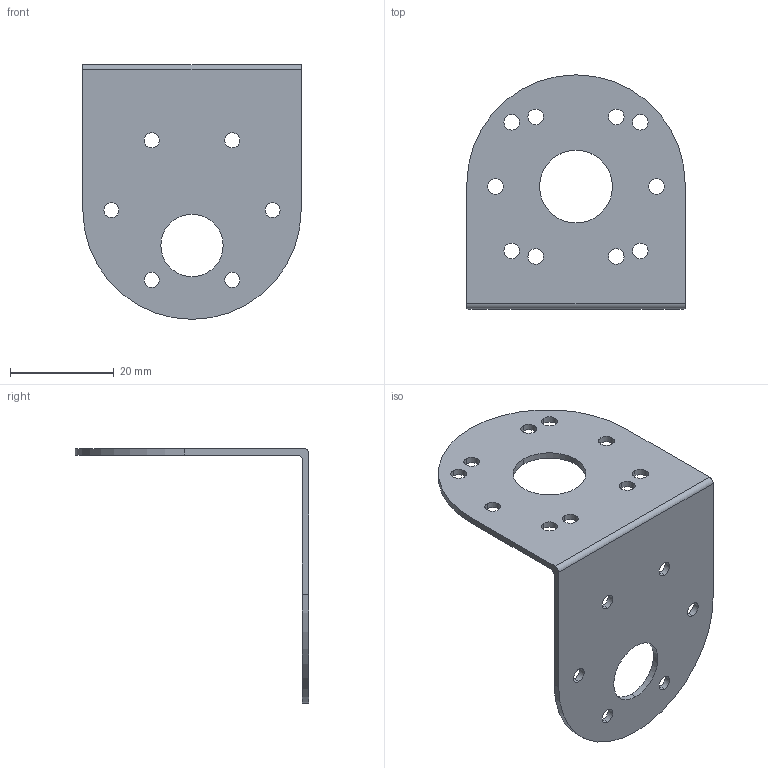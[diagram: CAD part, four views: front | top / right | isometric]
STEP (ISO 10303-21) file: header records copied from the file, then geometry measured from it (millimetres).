
FILE_DESCRIPTION (( 'STEP AP214' ), '1' );
FILE_NAME ('PiBorg Advanced Motor Bracket Mount Large.STEP', '2022-02-18T21:50:21', ( '' ), ( '' ), 'SwSTEP 2.0', 'SolidWorks 2022', '' );
FILE_SCHEMA (( 'AUTOMOTIVE_DESIGN' ));
Length unit declared in the file: millimetre
Products named in the file (1): PiBorg Advanced Motor Bracket Mount Large
Bounding box: 42 x 45 x 49 mm (x, y, z)
Volume: 3924.5 mm3; surface area: 6823.2 mm2
Topology: 1 solids, 1 shells, 46 faces, 132 edges, 88 vertices
Faces by surface type: cylinder 40, plane 6
Entity records: 1662 total; most frequent: DIRECTION 306, CARTESIAN_POINT 267, ORIENTED_EDGE 264, EDGE_CURVE 132, AXIS2_PLACEMENT_3D 127, VERTEX_POINT 88, EDGE_LOOP 82, CIRCLE 80
